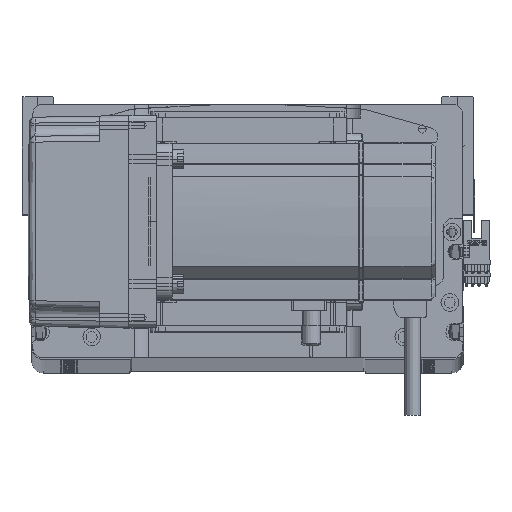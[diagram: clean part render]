
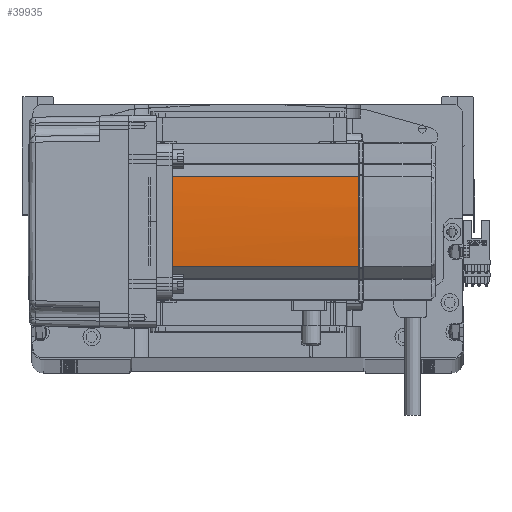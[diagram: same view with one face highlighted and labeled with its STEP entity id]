
A CAD part, top view. The second image highlights one B-rep face of the part: STEP entity #39935.
In plain terms, the highlighted cylindrical face has radius 270 mm (diameter 540 mm), a partial arc.
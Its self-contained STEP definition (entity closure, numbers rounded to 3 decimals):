
#191 = CARTESIAN_POINT ( 'NONE',  ( 40., 0.042, 134. ) ) ;
#1999 = B_SPLINE_CURVE_WITH_KNOTS ( 'NONE', 3,
 ( #38826, #19318, #191, #19109 ),
 .UNSPECIFIED., .F., .F.,
 ( 4, 4 ),
 ( 0., 1. ),
 .UNSPECIFIED. ) ;
#2521 = VECTOR ( 'NONE', #50252, 1000. ) ;
#2921 = CARTESIAN_POINT ( 'NONE',  ( 39.042, -22.724, 58. ) ) ;
#6306 = CIRCLE ( 'NONE', #26400, 270. ) ;
#6728 = DIRECTION ( 'NONE',  ( 0., 0., -1. ) ) ;
#7202 = ORIENTED_EDGE ( 'NONE', *, *, #33289, .T. ) ;
#10550 = VERTEX_POINT ( 'NONE', #37088 ) ;
#12807 = CARTESIAN_POINT ( 'NONE',  ( 39.042, 22.724, 134. ) ) ;
#12922 = DIRECTION ( 'NONE',  ( 0., 0., -1. ) ) ;
#16899 = CARTESIAN_POINT ( 'NONE',  ( 39.042, 22.724, 58. ) ) ;
#17016 = AXIS2_PLACEMENT_3D ( 'NONE', #28097, #12922, #51145 ) ;
#17347 = ORIENTED_EDGE ( 'NONE', *, *, #38240, .T. ) ;
#19109 = CARTESIAN_POINT ( 'NONE',  ( 40., 0.127, 134. ) ) ;
#19318 = CARTESIAN_POINT ( 'NONE',  ( 40., -0.042, 134. ) ) ;
#19391 = CARTESIAN_POINT ( 'NONE',  ( 39.042, -22.724, 134. ) ) ;
#20781 = ORIENTED_EDGE ( 'NONE', *, *, #36424, .F. ) ;
#23166 = EDGE_CURVE ( 'NONE', #38079, #23606, #47386, .T. ) ;
#23606 = VERTEX_POINT ( 'NONE', #12807 ) ;
#26400 = AXIS2_PLACEMENT_3D ( 'NONE', #29478, #57933, #43977 ) ;
#26937 = EDGE_CURVE ( 'NONE', #23606, #10550, #52579, .T. ) ;
#27199 = CARTESIAN_POINT ( 'NONE',  ( -230., 0., 58. ) ) ;
#28027 = DIRECTION ( 'NONE',  ( -1., 0., 0. ) ) ;
#28097 = CARTESIAN_POINT ( 'NONE',  ( -230., 0., 39. ) ) ;
#28964 = VERTEX_POINT ( 'NONE', #19391 ) ;
#29478 = CARTESIAN_POINT ( 'NONE',  ( -230., 0., 134. ) ) ;
#32776 = DIRECTION ( 'NONE',  ( 0., 0., -1. ) ) ;
#32887 = ORIENTED_EDGE ( 'NONE', *, *, #26937, .T. ) ;
#33289 = EDGE_CURVE ( 'NONE', #34349, #28964, #6306, .T. ) ;
#34349 = VERTEX_POINT ( 'NONE', #53449 ) ;
#34458 = ORIENTED_EDGE ( 'NONE', *, *, #23166, .T. ) ;
#35991 = DIRECTION ( 'NONE',  ( 0., 0., 1. ) ) ;
#36424 = EDGE_CURVE ( 'NONE', #38079, #53676, #45226, .T. ) ;
#36516 = CYLINDRICAL_SURFACE ( 'NONE', #60144, 270. ) ;
#37088 = CARTESIAN_POINT ( 'NONE',  ( 40., 0.127, 134. ) ) ;
#38079 = VERTEX_POINT ( 'NONE', #52793 ) ;
#38240 = EDGE_CURVE ( 'NONE', #28964, #53676, #47135, .T. ) ;
#38826 = CARTESIAN_POINT ( 'NONE',  ( 40., -0.127, 134. ) ) ;
#39585 = AXIS2_PLACEMENT_3D ( 'NONE', #58817, #6728, #39907 ) ;
#39907 = DIRECTION ( 'NONE',  ( -1., 0., 0. ) ) ;
#39935 = ADVANCED_FACE ( 'NONE', ( #50639 ), #36516, .T. ) ;
#43977 = DIRECTION ( 'NONE',  ( -1., 0., 0. ) ) ;
#45226 = CIRCLE ( 'NONE', #17016, 270. ) ;
#45833 = ORIENTED_EDGE ( 'NONE', *, *, #59169, .F. ) ;
#47135 = LINE ( 'NONE', #2921, #2521 ) ;
#47386 = LINE ( 'NONE', #16899, #48877 ) ;
#47521 = CARTESIAN_POINT ( 'NONE',  ( 39.042, -22.724, 39. ) ) ;
#48877 = VECTOR ( 'NONE', #35991, 1000. ) ;
#50252 = DIRECTION ( 'NONE',  ( 0., 0., -1. ) ) ;
#50639 = FACE_OUTER_BOUND ( 'NONE', #56240, .T. ) ;
#51145 = DIRECTION ( 'NONE',  ( -1., 0., 0. ) ) ;
#52579 = CIRCLE ( 'NONE', #39585, 270. ) ;
#52793 = CARTESIAN_POINT ( 'NONE',  ( 39.042, 22.724, 39. ) ) ;
#53449 = CARTESIAN_POINT ( 'NONE',  ( 40., -0.127, 134. ) ) ;
#53676 = VERTEX_POINT ( 'NONE', #47521 ) ;
#56240 = EDGE_LOOP ( 'NONE', ( #17347, #20781, #34458, #32887, #45833, #7202 ) ) ;
#57933 = DIRECTION ( 'NONE',  ( 0., 0., -1. ) ) ;
#58817 = CARTESIAN_POINT ( 'NONE',  ( -230., 0., 134. ) ) ;
#59169 = EDGE_CURVE ( 'NONE', #34349, #10550, #1999, .T. ) ;
#60144 = AXIS2_PLACEMENT_3D ( 'NONE', #27199, #32776, #28027 ) ;
